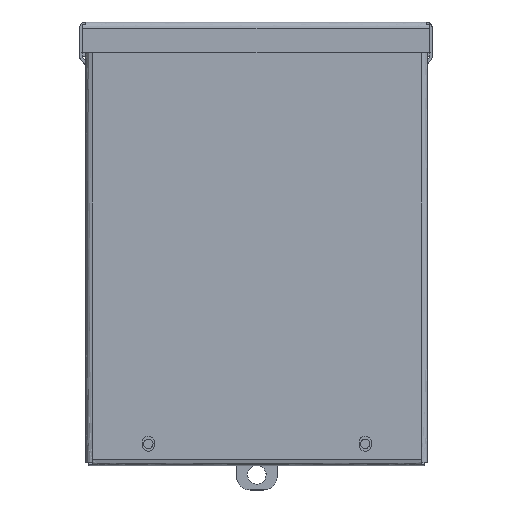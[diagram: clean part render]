
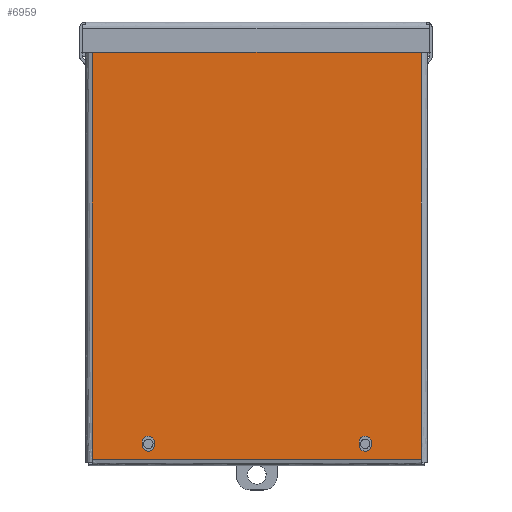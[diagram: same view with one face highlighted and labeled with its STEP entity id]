
A CAD part, top view. The second image highlights one B-rep face of the part: STEP entity #6959.
In plain terms, the highlighted free-form (B-spline) face has degree [1, 1] with [2, 2] control points.
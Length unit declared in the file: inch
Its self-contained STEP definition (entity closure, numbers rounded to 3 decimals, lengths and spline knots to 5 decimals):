
#6174=CARTESIAN_POINT('V71',(0.9855,-0.055,
   7.622));
#6175=VERTEX_POINT('V71',#6174);
#6183=CARTESIAN_POINT('V74',(1.2045,-0.055,
   7.622));
#6184=VERTEX_POINT('V74',#6183);
#6185=CARTESIAN_POINT('E88',(1.2045,-0.055,
   7.622));
#6186=CARTESIAN_POINT('E88',(1.2045,-0.055,
   7.5125));
#6187=CARTESIAN_POINT('E88',(1.095,-0.055,
   7.5125));
#6188=CARTESIAN_POINT('E88',(0.9855,-0.055,
   7.5125));
#6189=CARTESIAN_POINT('E88',(0.9855,-0.055,
   7.622));
#6197=(BOUNDED_CURVE()B_SPLINE_CURVE(2,(#6185,#6186,#6187,#6188,
   #6189),.CIRCULAR_ARC.,.F.,.U.)B_SPLINE_CURVE_WITH_KNOTS((3,2,3),
   (0.0,0.5,1.0),.UNSPECIFIED.)CURVE()
   GEOMETRIC_REPRESENTATION_ITEM()RATIONAL_B_SPLINE_CURVE((1.0,
   0.707,1.0,0.707,1.0))REPRESENTATION_ITEM(
   'E88'));
#6198=EDGE_CURVE('E88',#6184,#6175,#6197,.T.);
#6231=CARTESIAN_POINT('V73',(1.2045,-0.055,
   7.684));
#6232=VERTEX_POINT('V73',#6231);
#6233=CARTESIAN_POINT('E87',(1.2045,-0.055,
   7.684));
#6234=CARTESIAN_POINT('E87',(1.2045,-0.055,
   7.622));
#6235=QUASI_UNIFORM_CURVE('E87',1,(#6233,#6234),.POLYLINE_FORM.,.F.,
   .U.);
#6236=EDGE_CURVE('E87',#6232,#6184,#6235,.T.);
#6272=CARTESIAN_POINT('V72',(0.9855,-0.055,
   7.684));
#6273=VERTEX_POINT('V72',#6272);
#6274=CARTESIAN_POINT('E86',(0.9855,-0.055,
   7.684));
#6275=CARTESIAN_POINT('E86',(0.9855,-0.055,
   7.7935));
#6276=CARTESIAN_POINT('E86',(1.095,-0.055,
   7.7935));
#6277=CARTESIAN_POINT('E86',(1.2045,-0.055,
   7.7935));
#6278=CARTESIAN_POINT('E86',(1.2045,-0.055,
   7.684));
#6286=(BOUNDED_CURVE()B_SPLINE_CURVE(2,(#6274,#6275,#6276,#6277,
   #6278),.CIRCULAR_ARC.,.F.,.U.)B_SPLINE_CURVE_WITH_KNOTS((3,2,3),
   (0.0,0.5,1.0),.UNSPECIFIED.)CURVE()
   GEOMETRIC_REPRESENTATION_ITEM()RATIONAL_B_SPLINE_CURVE((1.0,
   0.707,1.0,0.707,1.0))REPRESENTATION_ITEM(
   'E86'));
#6287=EDGE_CURVE('E86',#6273,#6232,#6286,.T.);
#6320=CARTESIAN_POINT('E85',(0.9855,-0.055,
   7.622));
#6321=CARTESIAN_POINT('E85',(0.9855,-0.055,
   7.684));
#6322=QUASI_UNIFORM_CURVE('E85',1,(#6320,#6321),.POLYLINE_FORM.,.F.,
   .U.);
#6323=EDGE_CURVE('E85',#6175,#6273,#6322,.T.);
#6352=CARTESIAN_POINT('V67',(5.2045,-0.055,
   7.684));
#6353=VERTEX_POINT('V67',#6352);
#6361=CARTESIAN_POINT('V70',(4.9855,-0.055,
   7.684));
#6362=VERTEX_POINT('V70',#6361);
#6363=CARTESIAN_POINT('E84',(4.9855,-0.055,
   7.684));
#6364=CARTESIAN_POINT('E84',(4.9855,-0.055,
   7.7935));
#6365=CARTESIAN_POINT('E84',(5.095,-0.055,
   7.7935));
#6366=CARTESIAN_POINT('E84',(5.2045,-0.055,
   7.7935));
#6367=CARTESIAN_POINT('E84',(5.2045,-0.055,
   7.684));
#6375=(BOUNDED_CURVE()B_SPLINE_CURVE(2,(#6363,#6364,#6365,#6366,
   #6367),.CIRCULAR_ARC.,.F.,.U.)B_SPLINE_CURVE_WITH_KNOTS((3,2,3),
   (0.0,0.5,1.0),.UNSPECIFIED.)CURVE()
   GEOMETRIC_REPRESENTATION_ITEM()RATIONAL_B_SPLINE_CURVE((1.0,
   0.707,1.0,0.707,1.0))REPRESENTATION_ITEM(
   'E84'));
#6376=EDGE_CURVE('E84',#6362,#6353,#6375,.T.);
#6409=CARTESIAN_POINT('V69',(4.9855,-0.055,
   7.622));
#6410=VERTEX_POINT('V69',#6409);
#6411=CARTESIAN_POINT('E83',(4.9855,-0.055,
   7.622));
#6412=CARTESIAN_POINT('E83',(4.9855,-0.055,
   7.684));
#6413=QUASI_UNIFORM_CURVE('E83',1,(#6411,#6412),.POLYLINE_FORM.,.F.,
   .U.);
#6414=EDGE_CURVE('E83',#6410,#6362,#6413,.T.);
#6450=CARTESIAN_POINT('V68',(5.2045,-0.055,
   7.622));
#6451=VERTEX_POINT('V68',#6450);
#6452=CARTESIAN_POINT('E82',(5.2045,-0.055,
   7.622));
#6453=CARTESIAN_POINT('E82',(5.2045,-0.055,
   7.5125));
#6454=CARTESIAN_POINT('E82',(5.095,-0.055,
   7.5125));
#6455=CARTESIAN_POINT('E82',(4.9855,-0.055,
   7.5125));
#6456=CARTESIAN_POINT('E82',(4.9855,-0.055,
   7.622));
#6464=(BOUNDED_CURVE()B_SPLINE_CURVE(2,(#6452,#6453,#6454,#6455,
   #6456),.CIRCULAR_ARC.,.F.,.U.)B_SPLINE_CURVE_WITH_KNOTS((3,2,3),
   (0.0,0.5,1.0),.UNSPECIFIED.)CURVE()
   GEOMETRIC_REPRESENTATION_ITEM()RATIONAL_B_SPLINE_CURVE((1.0,
   0.707,1.0,0.707,1.0))REPRESENTATION_ITEM(
   'E82'));
#6465=EDGE_CURVE('E82',#6451,#6410,#6464,.T.);
#6498=CARTESIAN_POINT('E81',(5.2045,-0.055,
   7.684));
#6499=CARTESIAN_POINT('E81',(5.2045,-0.055,
   7.622));
#6500=QUASI_UNIFORM_CURVE('E81',1,(#6498,#6499),.POLYLINE_FORM.,.F.,
   .U.);
#6501=EDGE_CURVE('E81',#6353,#6451,#6500,.T.);
#6856=CARTESIAN_POINT('V44',(0.06,-0.055,
   7.945));
#6857=VERTEX_POINT('V44',#6856);
#6894=CARTESIAN_POINT('V45',(0.06,-0.055,
   0.));
#6895=VERTEX_POINT('V45',#6894);
#6896=CARTESIAN_POINT('E52',(0.06,-0.055,
   0.));
#6897=CARTESIAN_POINT('E52',(0.06,-0.055,
   7.945));
#6898=QUASI_UNIFORM_CURVE('E52',1,(#6896,#6897),.POLYLINE_FORM.,.F.,
   .U.);
#6899=EDGE_CURVE('E52',#6895,#6857,#6898,.T.);
#6920=CARTESIAN_POINT('F21',(6.13,-0.055,
   0.));
#6921=CARTESIAN_POINT('F21',(6.13,-0.055,
   7.945));
#6922=CARTESIAN_POINT('F21',(0.06,-0.055,
   0.));
#6923=CARTESIAN_POINT('F21',(0.06,-0.055,
   7.945));
#6924=B_SPLINE_SURFACE_WITH_KNOTS('F21',1,1,((#6920,#6922),(#6921,
   #6923)),.PLANE_SURF.,.F.,.F.,.U.,(2,2),(2,2),(
   0.00019,1.30858),(0.00019,
   0.99981),.UNSPECIFIED.);
#6925=CARTESIAN_POINT('V41',(6.13,-0.055,
   0.));
#6926=VERTEX_POINT('V41',#6925);
#6927=CARTESIAN_POINT('E80',(0.06,-0.055,
   0.0));
#6928=CARTESIAN_POINT('E80',(6.13,-0.055,
   0.0));
#6929=QUASI_UNIFORM_CURVE('E80',1,(#6927,#6928),.POLYLINE_FORM.,.F.,
   .U.);
#6930=EDGE_CURVE('E80',#6895,#6926,#6929,.T.);
#6931=ORIENTED_EDGE('E80',*,*,#6930,.T.);
#6932=CARTESIAN_POINT('V40',(6.13,-0.055,
   7.945));
#6933=VERTEX_POINT('V40',#6932);
#6934=CARTESIAN_POINT('E48',(6.13,-0.055,
   7.945));
#6935=CARTESIAN_POINT('E48',(6.13,-0.055,
   0.));
#6936=QUASI_UNIFORM_CURVE('E48',1,(#6934,#6935),.POLYLINE_FORM.,.F.,
   .U.);
#6937=EDGE_CURVE('E48',#6933,#6926,#6936,.T.);
#6938=ORIENTED_EDGE('E48',*,*,#6937,.F.);
#6939=CARTESIAN_POINT('E60',(0.06,-0.055,
   7.945));
#6940=CARTESIAN_POINT('E60',(6.13,-0.055,
   7.945));
#6941=QUASI_UNIFORM_CURVE('E60',1,(#6939,#6940),.POLYLINE_FORM.,.F.,
   .U.);
#6942=EDGE_CURVE('E60',#6857,#6933,#6941,.T.);
#6943=ORIENTED_EDGE('E60',*,*,#6942,.F.);
#6944=ORIENTED_EDGE('E52',*,*,#6899,.F.);
#6945=EDGE_LOOP('F21',(#6931,#6938,#6943,#6944));
#6946=FACE_OUTER_BOUND('F21',#6945,.T.);
#6947=ORIENTED_EDGE('E81',*,*,#6501,.T.);
#6948=ORIENTED_EDGE('E82',*,*,#6465,.T.);
#6949=ORIENTED_EDGE('E83',*,*,#6414,.T.);
#6950=ORIENTED_EDGE('E84',*,*,#6376,.T.);
#6951=EDGE_LOOP('F21',(#6947,#6948,#6949,#6950));
#6952=FACE_BOUND('F21',#6951,.T.);
#6953=ORIENTED_EDGE('E85',*,*,#6323,.T.);
#6954=ORIENTED_EDGE('E86',*,*,#6287,.T.);
#6955=ORIENTED_EDGE('E87',*,*,#6236,.T.);
#6956=ORIENTED_EDGE('E88',*,*,#6198,.T.);
#6957=EDGE_LOOP('F21',(#6953,#6954,#6955,#6956));
#6958=FACE_BOUND('F21',#6957,.T.);
#6959=ADVANCED_FACE('F21',(#6946,#6952,#6958),#6924,.T.);
